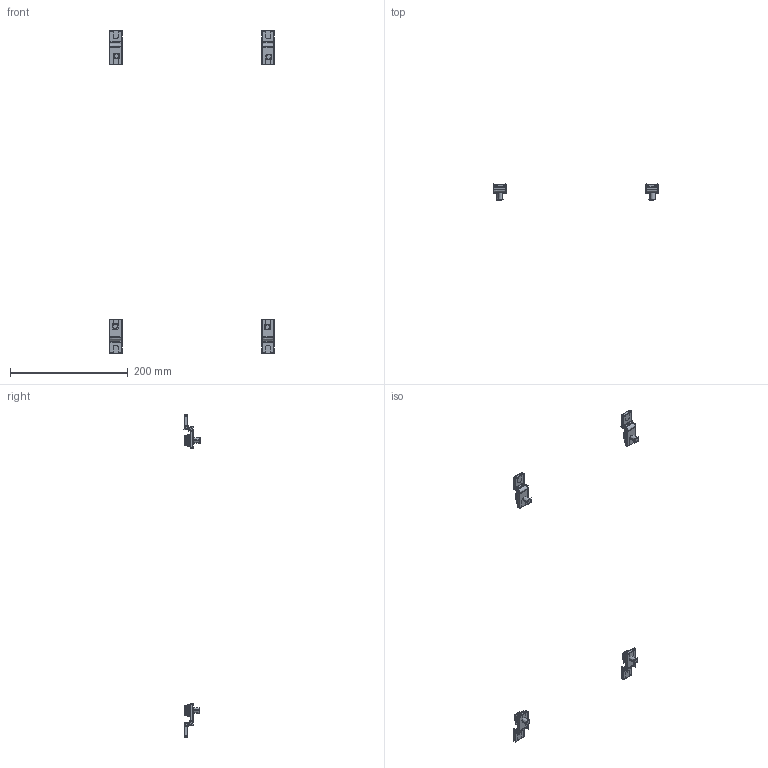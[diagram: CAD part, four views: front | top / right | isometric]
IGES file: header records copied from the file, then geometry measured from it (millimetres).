
Start section:  PTC IGES file: pk-sp4-supplied-mtgs-rear.igs
Global section: file name: pk-sp4-supplied-mtgs-rear.igs; native system: Pro/ENGINEER by Parametric Technology Corporation; preprocessor: 2005020; author: barlia01; organization: Unknown; date: 060517.160648; units: millimetre
Bounding box: 280.83 x 27.42 x 548.28 mm (x, y, z)
Surface area: 53614.6 mm2 (no closed solid volume)
Topology: 0 solids, 20 shells, 328 faces, 1752 edges, 2144 vertices
Faces by surface type: bspline 328
